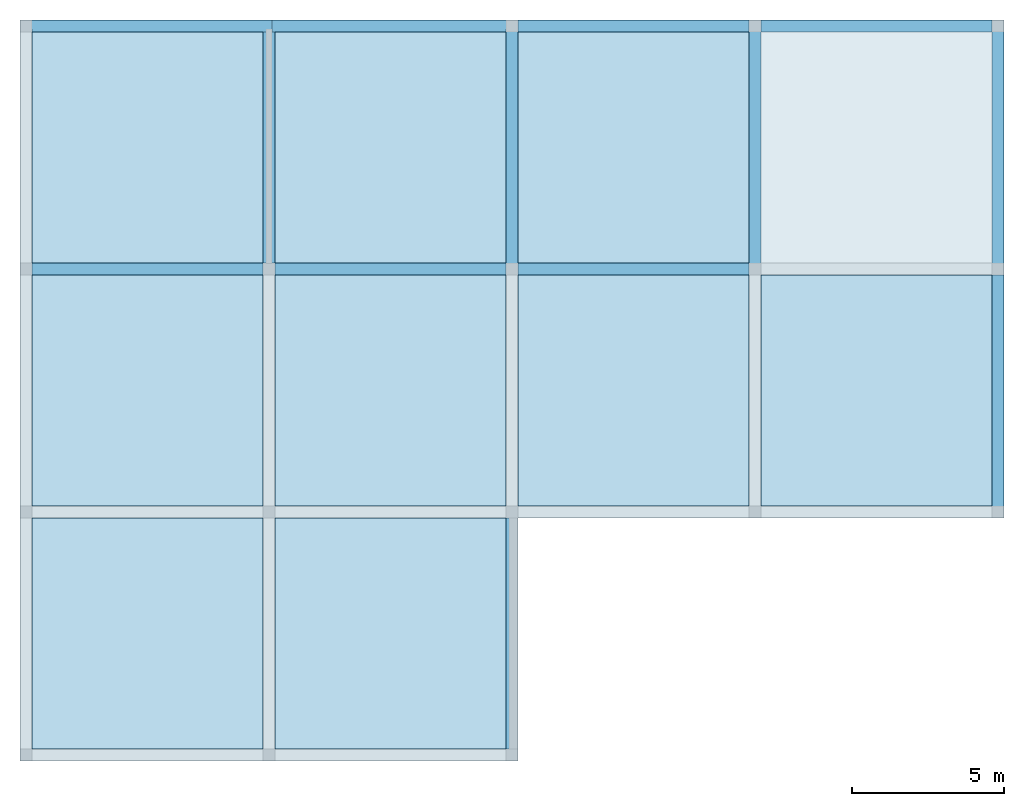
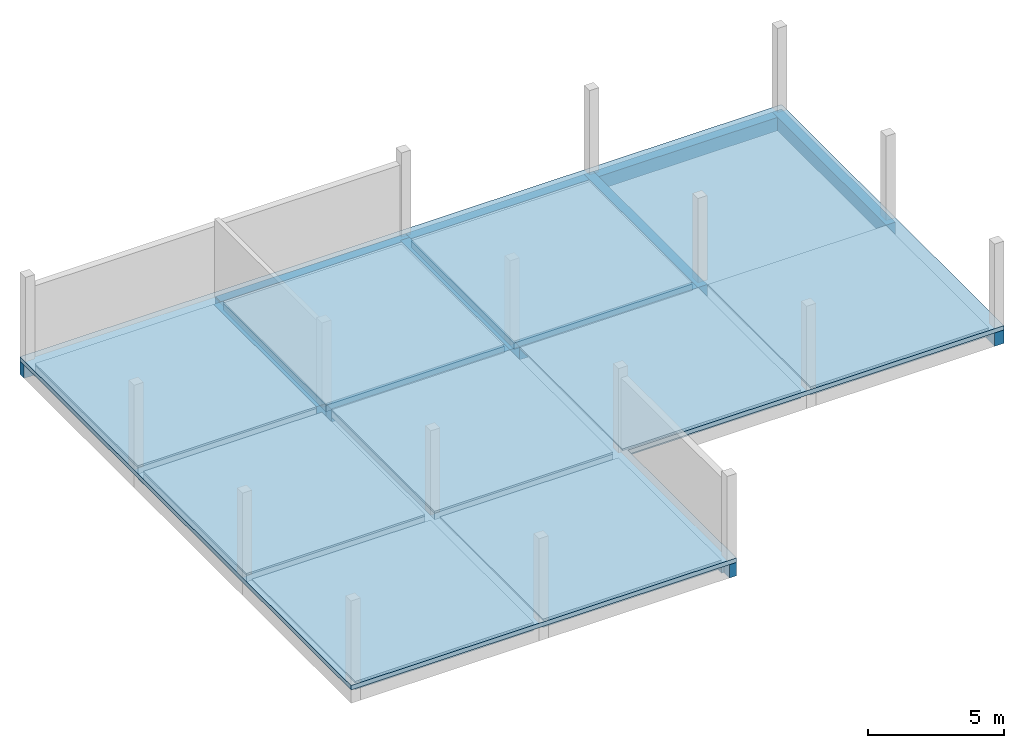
# One storey, part 2 of 3: 19 slabs, 13 beams.
"""IFC4X3_ADD2 building model written with IfcOpenShell, lengths in millimetres."""

from ifc_helpers import new_model, entity, si_unit, converted_unit, derived_unit, direction, frame, frame_2d, origin, origin_2d_with_axis, place, context, subcontext, project, spatial, polyline, rectangle, outline, extrude, faceted_brep, source, transform, mapped, material, layer, layer_set, layer_usage, material_profile, profile_set, type_object, type_shapes, element, save


model = new_model("IFC4X3_ADD2")

# Units and contexts
model_context = context("Model", 3, precision=0.01, world=origin(), true_north=direction((6.123233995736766e-17, 1.0)))
plan_context = context("Plan", 3, precision=0.01, world=origin(), true_north=direction((6.123233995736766e-17, 1.0)))
body_context = subcontext(model_context, "Body", "Model", "MODEL_VIEW")
ifc_project = project(units=[si_unit("LENGTHUNIT", "METRE", prefix="MILLI"), converted_unit("PLANEANGLEUNIT", "DEGREE", entity("IfcPlaneAngleMeasure", 0.017453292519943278), si_unit("PLANEANGLEUNIT", "RADIAN"), dimensions=[0, 0, 0, 0, 0, 0, 0]), si_unit("AREAUNIT", "SQUARE_METRE"), si_unit("VOLUMEUNIT", "CUBIC_METRE"), derived_unit("THERMALTRANSMITTANCEUNIT", [(si_unit("MASSUNIT", "GRAM", prefix="KILO"), 1), (si_unit("THERMODYNAMICTEMPERATUREUNIT", "KELVIN"), -1), (si_unit("TIMEUNIT", "SECOND"), -3)]), derived_unit("USERDEFINED", [(si_unit("MASSUNIT", "GRAM", prefix="KILO"), 1), (si_unit("THERMODYNAMICTEMPERATUREUNIT", "KELVIN"), -1), (si_unit("TIMEUNIT", "SECOND"), -2)]), derived_unit("THERMALRESISTANCEUNIT", [(si_unit("MASSUNIT", "GRAM", prefix="KILO"), -1), (si_unit("TIMEUNIT", "SECOND"), 3), (si_unit("THERMODYNAMICTEMPERATUREUNIT", "KELVIN"), 1)]), si_unit("PRESSUREUNIT", "PASCAL"), derived_unit("MASSDENSITYUNIT", [(si_unit("MASSUNIT", "GRAM", prefix="KILO"), 1), (si_unit("LENGTHUNIT", "METRE"), -3)]), derived_unit("MODULUSOFELASTICITYUNIT", [(si_unit("MASSUNIT", "GRAM", prefix="KILO"), 1), (si_unit("TIMEUNIT", "SECOND"), -2), (si_unit("LENGTHUNIT", "METRE"), -1)]), derived_unit("THERMALEXPANSIONCOEFFICIENTUNIT", [(si_unit("THERMODYNAMICTEMPERATUREUNIT", "KELVIN"), -1)]), derived_unit("VAPORPERMEABILITYUNIT", [(si_unit("LENGTHUNIT", "METRE"), -1), (si_unit("TIMEUNIT", "SECOND"), 1)]), derived_unit("USERDEFINED", [(si_unit("MASSUNIT", "GRAM", prefix="KILO"), 1), (si_unit("TIMEUNIT", "SECOND"), -3), (si_unit("LENGTHUNIT", "METRE"), 3), (si_unit("ELECTRICCURRENTUNIT", "AMPERE"), -2)]), derived_unit("SPECIFICHEATCAPACITYUNIT", [(si_unit("THERMODYNAMICTEMPERATUREUNIT", "KELVIN"), -1), (si_unit("TIMEUNIT", "SECOND"), -2), (si_unit("LENGTHUNIT", "METRE"), 2)]), derived_unit("THERMALCONDUCTANCEUNIT", [(si_unit("MASSUNIT", "GRAM", prefix="KILO"), 1), (si_unit("THERMODYNAMICTEMPERATUREUNIT", "KELVIN"), -1), (si_unit("TIMEUNIT", "SECOND"), -3), (si_unit("LENGTHUNIT", "METRE"), 1)])], contexts=[model_context, plan_context])

# Site, building, storey
site_placement = place(None, origin())
site = spatial("IfcSite", under=ifc_project, at=site_placement, Name="Default", CompositionType="ELEMENT")
building_placement = place(site_placement, origin())
building = spatial("IfcBuilding", under=site, at=building_placement, Name="Building Name", CompositionType="ELEMENT")
storey_placement = place(building_placement, origin())
storey = spatial("IfcBuildingStorey", under=building, at=storey_placement, Name="L1", CompositionType="ELEMENT", Elevation=0.0)

# Beams
ifc_material_1 = material(Name="Concrete - Cast-in-Place Concrete", Category="Concrete")
ifc_material_profile = material_profile(ifc_material_1, rectangle(XDim=600.0, YDim=400.0000000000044, at=frame_2d((-1.0942358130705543e-12, 2.842170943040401e-14), x_axis=(0.0, 1.0))), Name="400 x 600mm")
ifc_profile_set = profile_set([ifc_material_profile], Name="400 x 600mm")
beam_type_1 = type_object("IfcBeamType", Name="Concrete - Rectangular Beam:400 x 600mm", PredefinedType="BEAM", material=ifc_profile_set)
shared_shape_1 = source(origin(), body_context, "Body", "SweptSolid", [
    extrude(rectangle(XDim=600.0, YDim=400.0000000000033, at=frame_2d((5.400124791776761e-13, 2.842170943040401e-14), x_axis=(0.0, 1.0))), frame((3032.0487632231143, 11996.696870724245, -500.0), z_axis=(0.0, -1.0, 0.0), x_axis=(-1.0, 0.0, 0.0)), (0.0, 0.0, 1.0), 8100.000000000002),
])
type_shapes(beam_type_1, [shared_shape_1])
beam_1_placement = place(storey_placement, origin())
element("IfcBeam", 1, at=beam_1_placement, inside=storey, type_object=beam_type_1, Name="Concrete - Rectangular Beam:400 x 600mm", ObjectType="Concrete - Rectangular Beam:400 x 600mm", PredefinedType="BEAM", context=body_context, shape_type="MappedRepresentation", body=[
    mapped(shared_shape_1, transform((0.0, 0.0, 0.0), scale=1.0)),
])
beam_type_2 = type_object("IfcBeamType", Name="Concrete - Rectangular Beam:400 x 600mm", PredefinedType="BEAM", material=ifc_profile_set)
shared_shape_2 = source(origin(), body_context, "Body", "SweptSolid", [
    extrude(rectangle(XDim=600.0, YDim=400.00000000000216, at=frame_2d((-1.0942358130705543e-12, 2.842170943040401e-14), x_axis=(0.0, 1.0))), frame((11032.048763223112, 12296.696870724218, -500.0), z_axis=(0.0, -1.0, 0.0), x_axis=(-1.0, 0.0, 0.0)), (0.0, 0.0, 1.0), 8400.000000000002),
])
type_shapes(beam_type_2, [shared_shape_2])
beam_2_placement = place(storey_placement, origin())
element("IfcBeam", 2, at=beam_2_placement, inside=storey, type_object=beam_type_2, Name="Concrete - Rectangular Beam:400 x 600mm", ObjectType="Concrete - Rectangular Beam:400 x 600mm", PredefinedType="BEAM", context=body_context, shape_type="MappedRepresentation", body=[
    mapped(shared_shape_2, transform((0.0, 0.0, 0.0), scale=1.0)),
])
beam_type_3 = type_object("IfcBeamType", Name="Concrete - Rectangular Beam:400 x 600mm", PredefinedType="BEAM", material=ifc_profile_set)
shared_shape_3 = source(origin(), body_context, "Body", "SweptSolid", [
    extrude(rectangle(XDim=600.0, YDim=400.00000000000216, at=frame_2d((-1.0942358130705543e-12, 2.842170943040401e-14), x_axis=(0.0, 1.0))), frame((19032.048763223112, 12296.696870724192, -500.0), z_axis=(0.0, -1.0, 0.0), x_axis=(-1.0, 0.0, 0.0)), (0.0, 0.0, 1.0), 8400.000000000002),
])
type_shapes(beam_type_3, [shared_shape_3])
beam_3_placement = place(storey_placement, origin())
element("IfcBeam", 3, at=beam_3_placement, inside=storey, type_object=beam_type_3, Name="Concrete - Rectangular Beam:400 x 600mm", ObjectType="Concrete - Rectangular Beam:400 x 600mm", PredefinedType="BEAM", context=body_context, shape_type="MappedRepresentation", body=[
    mapped(shared_shape_3, transform((0.0, 0.0, 0.0), scale=1.0)),
])
beam_type_4 = type_object("IfcBeamType", Name="Concrete - Rectangular Beam:400 x 600mm", PredefinedType="BEAM", material=ifc_profile_set)
shared_shape_4 = source(origin(), body_context, "Body", "SweptSolid", [
    extrude(rectangle(XDim=600.0, YDim=400.00000000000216, at=frame_2d((-1.0942358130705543e-12, 2.842170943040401e-14), x_axis=(0.0, 1.0))), frame((19032.048763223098, 3896.6968707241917, -500.0), z_axis=(0.0, -1.0, 0.0), x_axis=(-1.0, 0.0, 0.0)), (0.0, 0.0, 1.0), 8000.000000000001),
])
type_shapes(beam_type_4, [shared_shape_4])
beam_4_placement = place(storey_placement, origin())
element("IfcBeam", 4, at=beam_4_placement, inside=storey, type_object=beam_type_4, Name="Concrete - Rectangular Beam:400 x 600mm", ObjectType="Concrete - Rectangular Beam:400 x 600mm", PredefinedType="BEAM", context=body_context, shape_type="MappedRepresentation", body=[
    mapped(shared_shape_4, transform((0.0, 0.0, 0.0), scale=1.0)),
])
beam_type_5 = type_object("IfcBeamType", Name="Concrete - Rectangular Beam:400 x 600mm", PredefinedType="BEAM", material=ifc_profile_set)
shared_shape_5 = source(origin(), body_context, "Body", "SweptSolid", [
    extrude(rectangle(XDim=600.0, YDim=400.0000000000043, at=frame_2d((2.842170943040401e-14, -2.1600499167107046e-12), x_axis=(1.0, 0.0))), frame((3232.0487632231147, 12096.696870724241, -500.0), z_axis=(1.0, 0.0, 0.0), x_axis=(0.0, 0.0, -1.0)), (0.0, 0.0, 1.0), 7600.000000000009),
])
type_shapes(beam_type_5, [shared_shape_5])
beam_5_placement = place(storey_placement, origin())
element("IfcBeam", 5, at=beam_5_placement, inside=storey, type_object=beam_type_5, Name="Concrete - Rectangular Beam:400 x 600mm", ObjectType="Concrete - Rectangular Beam:400 x 600mm", PredefinedType="BEAM", context=body_context, shape_type="MappedRepresentation", body=[
    mapped(shared_shape_5, transform((0.0, 0.0, 0.0), scale=1.0)),
])
beam_type_6 = type_object("IfcBeamType", Name="Concrete - Rectangular Beam:400 x 600mm", PredefinedType="BEAM", material=ifc_profile_set)
shared_shape_6 = source(origin(), body_context, "Body", "SweptSolid", [
    extrude(rectangle(XDim=600.0, YDim=400.0000000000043, at=frame_2d((2.842170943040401e-14, -2.1600499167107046e-12), x_axis=(1.0, 0.0))), frame((11232.048763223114, 12096.696870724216, -500.0), z_axis=(1.0, 0.0, 0.0), x_axis=(0.0, 0.0, -1.0)), (0.0, 0.0, 1.0), 7600.000000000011),
])
type_shapes(beam_type_6, [shared_shape_6])
beam_6_placement = place(storey_placement, origin())
element("IfcBeam", 6, at=beam_6_placement, inside=storey, type_object=beam_type_6, Name="Concrete - Rectangular Beam:400 x 600mm", ObjectType="Concrete - Rectangular Beam:400 x 600mm", PredefinedType="BEAM", context=body_context, shape_type="MappedRepresentation", body=[
    mapped(shared_shape_6, transform((0.0, 0.0, 0.0), scale=1.0)),
])
beam_type_7 = type_object("IfcBeamType", Name="Concrete - Rectangular Beam:400 x 600mm", PredefinedType="BEAM", material=ifc_profile_set)
shared_shape_7 = source(origin(), body_context, "Body", "SweptSolid", [
    extrude(rectangle(XDim=600.0, YDim=400.0000000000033, at=frame_2d((2.842170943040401e-14, 0.0), x_axis=(1.0, 0.0))), frame((3232.048763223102, 4096.696870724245, -500.0), z_axis=(1.0, 0.0, 0.0), x_axis=(0.0, 0.0, -1.0)), (0.0, 0.0, 1.0), 7599.999999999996),
])
type_shapes(beam_type_7, [shared_shape_7])
beam_7_placement = place(storey_placement, origin())
element("IfcBeam", 7, at=beam_7_placement, inside=storey, type_object=beam_type_7, Name="Concrete - Rectangular Beam:400 x 600mm", ObjectType="Concrete - Rectangular Beam:400 x 600mm", PredefinedType="BEAM", context=body_context, shape_type="MappedRepresentation", body=[
    mapped(shared_shape_7, transform((0.0, 0.0, 0.0), scale=1.0)),
])
beam_type_8 = type_object("IfcBeamType", Name="Concrete - Rectangular Beam:400 x 600mm", PredefinedType="BEAM", material=ifc_profile_set)
shared_shape_8 = source(origin(), body_context, "Body", "SweptSolid", [
    extrude(rectangle(XDim=600.0, YDim=400.0000000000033, at=frame_2d((2.842170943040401e-14, 0.0), x_axis=(1.0, 0.0))), frame((-12767.9512367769, 4096.696870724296, -500.0), z_axis=(1.0, 0.0, 0.0), x_axis=(0.0, 0.0, -1.0)), (0.0, 0.0, 1.0), 7600.000000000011),
])
type_shapes(beam_type_8, [shared_shape_8])
beam_8_placement = place(storey_placement, origin())
element("IfcBeam", 8, at=beam_8_placement, inside=storey, type_object=beam_type_8, Name="Concrete - Rectangular Beam:400 x 600mm", ObjectType="Concrete - Rectangular Beam:400 x 600mm", PredefinedType="BEAM", context=body_context, shape_type="MappedRepresentation", body=[
    mapped(shared_shape_8, transform((0.0, 0.0, 0.0), scale=1.0)),
])
beam_type_9 = type_object("IfcBeamType", Name="Concrete - Rectangular Beam:400 x 600mm", PredefinedType="BEAM", material=ifc_profile_set)
shared_shape_9 = source(origin(), body_context, "Body", "SweptSolid", [
    extrude(rectangle(XDim=600.0, YDim=400.0000000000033, at=frame_2d((2.842170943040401e-14, 0.0), x_axis=(1.0, 0.0))), frame((-4767.9512367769, 4096.69687072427, -500.0), z_axis=(1.0, 0.0, 0.0), x_axis=(0.0, 0.0, -1.0)), (0.0, 0.0, 1.0), 7599.999999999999),
])
type_shapes(beam_type_9, [shared_shape_9])
beam_9_placement = place(storey_placement, origin())
element("IfcBeam", 9, at=beam_9_placement, inside=storey, type_object=beam_type_9, Name="Concrete - Rectangular Beam:400 x 600mm", ObjectType="Concrete - Rectangular Beam:400 x 600mm", PredefinedType="BEAM", context=body_context, shape_type="MappedRepresentation", body=[
    mapped(shared_shape_9, transform((0.0, 0.0, 0.0), scale=1.0)),
])
beam_type_10 = type_object("IfcBeamType", Name="Concrete - Rectangular Beam:400 x 600mm", PredefinedType="BEAM", material=ifc_profile_set)
shared_shape_10 = source(origin(), body_context, "Body", "Brep", [
    faceted_brep([(8300.0, 0.0, 600.0), (8300.0, 400.0, 600.0), (0.0, 400.0, 600.0), (0.0, 100.0, 600.0), (400.0, 100.0, 600.0), (400.0, 0.0, 600.0), (8000.0, 0.0, 600.0), (8300.0, 0.0, 0.0), (400.0, 0.0, 520.0), (400.0, 0.0, 220.0), (400.0, 0.0, 0.0), (800.0, 0.0, 0.0), (7600.0, 0.0, 0.0), (8000.0, 0.0, 0.0), (8300.0, 400.0, 0.0), (400.0, 100.0, 0.0), (0.0, 100.0, 0.0), (0.0, 400.0, 0.0), (800.0, 400.0, 0.0), (7600.0, 400.0, 0.0)], [[[0, 1, 2, 3, 4, 5, 6]], [[7, 0, 6, 5, 8, 9, 10, 11, 12, 13]], [[14, 7, 13, 12, 11, 10, 15, 16, 17, 18, 19]], [[1, 14, 19, 18, 17, 2]], [[4, 15, 10, 9, 8, 5]], [[1, 0, 7, 14]], [[2, 17, 16, 3]], [[15, 4, 3, 16]]]),
])
type_shapes(beam_type_10, [shared_shape_10])
beam_10_placement = place(storey_placement, frame((-13167.95123677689, 11896.696870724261, -800.0)))
element("IfcBeam", 10, at=beam_10_placement, inside=storey, type_object=beam_type_10, material=ifc_material_1, Name="Concrete - Rectangular Beam:400 x 600mm", ObjectType="Concrete - Rectangular Beam:400 x 600mm", PredefinedType="BEAM", context=body_context, shape_type="MappedRepresentation", body=[
    mapped(shared_shape_10, transform((0.0, 0.0, 0.0), scale=1.0)),
])
beam_type_11 = type_object("IfcBeamType", Name="Concrete - Rectangular Beam:400 x 600mm", PredefinedType="BEAM", material=ifc_profile_set)
shared_shape_11 = source(origin(), body_context, "Body", "Brep", [
    faceted_brep([(0.0, 400.0, 600.0), (0.0, 400.0, 0.0), (0.0, 0.0, 0.0), (0.0, 0.0, 600.0), (100.0, 0.0, 600.0), (7700.0, 0.0, 600.0), (7700.0, 100.0, 600.0), (8100.0, 100.0, 600.0), (8100.0, 400.0, 600.0), (100.0, 0.0, 0.0), (500.0, 0.0, 0.0), (7300.0, 0.0, 0.0), (7700.0, 0.0, 0.0), (7700.0, 0.0, 220.0), (7700.0, 0.0, 520.0), (500.0, 400.0, 0.0), (7300.0, 400.0, 0.0), (8100.0, 400.0, 0.0), (8100.0, 100.0, 0.0), (7700.0, 100.0, 0.0)], [[[0, 1, 2, 3]], [[0, 3, 4, 5, 6, 7, 8]], [[3, 2, 9, 10, 11, 12, 13, 14, 5, 4]], [[2, 1, 15, 16, 17, 18, 19, 12, 11, 10, 9]], [[1, 0, 8, 17, 16, 15]], [[17, 8, 7, 18]], [[19, 6, 5, 14, 13, 12]], [[6, 19, 18, 7]]]),
])
type_shapes(beam_type_11, [shared_shape_11])
beam_11_placement = place(storey_placement, frame((-4867.951236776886, 11896.696870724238, -800.0)))
element("IfcBeam", 11, at=beam_11_placement, inside=storey, type_object=beam_type_11, material=ifc_material_1, Name="Concrete - Rectangular Beam:400 x 600mm", ObjectType="Concrete - Rectangular Beam:400 x 600mm", PredefinedType="BEAM", context=body_context, shape_type="MappedRepresentation", body=[
    mapped(shared_shape_11, transform((0.0, 0.0, 0.0), scale=1.0)),
])
beam_type_12 = type_object("IfcBeamType", Name="Concrete - Rectangular Beam:400 x 600mm", PredefinedType="BEAM", material=ifc_profile_set)
shared_shape_12 = source(origin(), body_context, "Body", "Brep", [
    faceted_brep([(0.0, 400.0, 600.0), (100.0, 400.0, 600.0), (100.0, 0.0, 600.0), (400.0, 0.0, 600.0), (400.0, 8000.0, 600.0), (0.0, 8000.0, 600.0), (0.0, 400.0, 0.0), (0.0, 400.0, 220.0), (0.0, 400.0, 520.0), (0.0, 8000.0, 520.0), (0.0, 8000.0, 220.0), (0.0, 8000.0, 0.0), (0.0, 7600.0, 0.0), (0.0, 800.0, 0.0), (100.0, 400.0, 0.0), (400.0, 8000.0, 0.0), (400.0, 7600.0, 0.0), (400.0, 800.0, 0.0), (400.0, 0.0, 0.0), (100.0, 0.0, 0.0)], [[[0, 1, 2, 3, 4, 5]], [[6, 7, 8, 0, 5, 9, 10, 11, 12, 13]], [[14, 6, 13, 12, 11, 15, 16, 17, 18, 19]], [[3, 18, 17, 16, 15, 4]], [[18, 3, 2, 19]], [[1, 0, 8, 7, 6, 14]], [[4, 15, 11, 10, 9, 5]], [[1, 14, 19, 2]]]),
])
type_shapes(beam_type_12, [shared_shape_12])
beam_12_placement = place(storey_placement, frame((2832.048763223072, -12103.303129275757, -800.0)))
element("IfcBeam", 12, at=beam_12_placement, inside=storey, type_object=beam_type_12, material=ifc_material_1, Name="Concrete - Rectangular Beam:400 x 600mm", ObjectType="Concrete - Rectangular Beam:400 x 600mm", PredefinedType="BEAM", context=body_context, shape_type="MappedRepresentation", body=[
    mapped(shared_shape_12, transform((0.0, 0.0, 0.0), scale=1.0)),
])
beam_type_13 = type_object("IfcBeamType", Name="Concrete - Rectangular Beam:400 x 600mm", PredefinedType="BEAM", material=ifc_profile_set)
shared_shape_13 = source(origin(), body_context, "Body", "SweptSolid", [
    extrude(rectangle(XDim=600.0, YDim=400.0000000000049, at=frame_2d((2.7000623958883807e-13, 2.842170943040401e-14), x_axis=(0.0, 1.0))), frame((-4967.951236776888, 11896.696870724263, -500.0), z_axis=(0.0, -1.0, 0.0), x_axis=(-1.0, 0.0, 0.0)), (0.0, 0.0, 1.0), 7600.000000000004),
])
type_shapes(beam_type_13, [shared_shape_13])
beam_13_placement = place(storey_placement, origin())
element("IfcBeam", 13, at=beam_13_placement, inside=storey, type_object=beam_type_13, Name="Concrete - Rectangular Beam:400 x 600mm", ObjectType="Concrete - Rectangular Beam:400 x 600mm", PredefinedType="BEAM", context=body_context, shape_type="MappedRepresentation", body=[
    mapped(shared_shape_13, transform((0.0, 0.0, 0.0), scale=1.0)),
])

# Slabs
ifc_material_2 = material(Name="Default Floor", Category="Miscellaneous")
ifc_layer_1 = layer(ifc_material_2, 200.0, Name="Layer", Category="Miscellaneous")
ifc_layer_set_1 = layer_set([ifc_layer_1], Name="Floor:Generic 200mm")
ifc_layer_usage_1 = layer_usage(ifc_layer_set_1, "AXIS3", "POSITIVE", 0.0)
slab_type_1 = type_object("IfcSlabType", Name="Floor:Generic 200mm", PredefinedType="FLOOR", material=ifc_layer_set_1)
slab_1_placement = place(storey_placement, origin())
element("IfcSlab", 14, at=slab_1_placement, inside=storey, type_object=slab_type_1, material=ifc_layer_usage_1, Name="Floor:Generic 200mm", ObjectType="Floor:Generic 200mm", PredefinedType="FLOOR", context=body_context, shape_type="SweptSolid", body=[
    extrude(outline(polyline([(-10800.0, -16266.666666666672), (13600.0, -16266.66666666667), (13600.0, 16133.333333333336), (-2800.0, 16133.33333333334), (-2800.0, 133.33333333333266), (-10800.0, 133.33333333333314), (-10800.0, -16266.666666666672)])), frame((3098.7154298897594, -1303.3031292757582, 0.0), z_axis=(0.0, 0.0, -1.0), x_axis=(0.0, 1.0, 0.0)), (0.0, 0.0, 1.0), 200.0),
])
ifc_layer_2 = layer(ifc_material_1, 80.0, Name="Concrete - Cast-in-Place Concrete", Category="Concrete")
ifc_layer_set_2 = layer_set([ifc_layer_2], Name="Floor:Blinding concrete 80mm")
ifc_layer_usage_2 = layer_usage(ifc_layer_set_2, "AXIS3", "POSITIVE", 0.0)
slab_type_2 = type_object("IfcSlabType", Name="Floor:Blinding concrete 80mm", PredefinedType="FLOOR", material=ifc_layer_set_2)
slab_2_placement = place(storey_placement, origin())
element("IfcSlab", 15, at=slab_2_placement, inside=storey, type_object=slab_type_2, material=ifc_layer_usage_2, Name="Floor:Blinding concrete 80mm", ObjectType="Floor:Blinding concrete 80mm", PredefinedType="FLOOR", context=body_context, shape_type="SweptSolid", body=[
    extrude(rectangle(XDim=7600.000000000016, YDim=7599.999999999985, at=frame_2d((-1.1368683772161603e-12, 1.1368683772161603e-12), x_axis=(1.0, 0.0))), frame((-8967.951236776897, 8096.69687072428, -200.0), z_axis=(0.0, 0.0, -1.0), x_axis=(0.0, 1.0, 0.0)), (0.0, 0.0, 1.0), 80.00000000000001),
])
ifc_layer_usage_3 = layer_usage(ifc_layer_set_2, "AXIS3", "POSITIVE", 0.0)
slab_3_placement = place(storey_placement, origin())
element("IfcSlab", 16, at=slab_3_placement, inside=storey, type_object=slab_type_2, material=ifc_layer_usage_3, Name="Floor:Blinding concrete 80mm", ObjectType="Floor:Blinding concrete 80mm", PredefinedType="FLOOR", context=body_context, shape_type="SweptSolid", body=[
    extrude(rectangle(XDim=7600.000000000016, YDim=7599.999999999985, at=frame_2d((-1.1368683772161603e-12, 0.0), x_axis=(1.0, 0.0))), frame((-967.9512367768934, 8096.696870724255, -200.0), z_axis=(0.0, 0.0, -1.0), x_axis=(0.0, 1.0, 0.0)), (0.0, 0.0, 1.0), 80.00000000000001),
])
ifc_layer_usage_4 = layer_usage(ifc_layer_set_2, "AXIS3", "POSITIVE", 0.0)
slab_4_placement = place(storey_placement, origin())
element("IfcSlab", 17, at=slab_4_placement, inside=storey, type_object=slab_type_2, material=ifc_layer_usage_4, Name="Floor:Blinding concrete 80mm", ObjectType="Floor:Blinding concrete 80mm", PredefinedType="FLOOR", context=body_context, shape_type="SweptSolid", body=[
    extrude(rectangle(XDim=7600.000000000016, YDim=7599.999999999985, at=frame_2d((-1.1368683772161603e-12, 0.0), x_axis=(1.0, 0.0))), frame((7032.048763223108, 8096.696870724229, -200.0), z_axis=(0.0, 0.0, -1.0), x_axis=(0.0, 1.0, 0.0)), (0.0, 0.0, 1.0), 80.00000000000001),
])
ifc_layer_usage_5 = layer_usage(ifc_layer_set_2, "AXIS3", "POSITIVE", 0.0)
slab_5_placement = place(storey_placement, origin())
element("IfcSlab", 18, at=slab_5_placement, inside=storey, type_object=slab_type_2, material=ifc_layer_usage_5, Name="Floor:Blinding concrete 80mm", ObjectType="Floor:Blinding concrete 80mm", PredefinedType="FLOOR", context=body_context, shape_type="SweptSolid", body=[
    extrude(rectangle(XDim=7600.0000000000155, YDim=7599.999999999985, at=frame_2d((0.0, -1.1368683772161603e-12), x_axis=(1.0, 0.0))), frame((15032.048763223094, 96.69687072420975, -200.0), z_axis=(0.0, 0.0, -1.0), x_axis=(0.0, 1.0, 0.0)), (0.0, 0.0, 1.0), 80.00000000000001),
])
ifc_layer_usage_6 = layer_usage(ifc_layer_set_2, "AXIS3", "POSITIVE", 0.0)
slab_6_placement = place(storey_placement, origin())
element("IfcSlab", 19, at=slab_6_placement, inside=storey, type_object=slab_type_2, material=ifc_layer_usage_6, Name="Floor:Blinding concrete 80mm", ObjectType="Floor:Blinding concrete 80mm", PredefinedType="FLOOR", context=body_context, shape_type="SweptSolid", body=[
    extrude(rectangle(XDim=7600.0000000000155, YDim=7599.999999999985, at=origin_2d_with_axis()), frame((7032.048763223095, 96.69687072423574, -200.0), z_axis=(0.0, 0.0, -1.0), x_axis=(0.0, 1.0, 0.0)), (0.0, 0.0, 1.0), 80.00000000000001),
])
ifc_layer_usage_7 = layer_usage(ifc_layer_set_2, "AXIS3", "POSITIVE", 0.0)
slab_7_placement = place(storey_placement, origin())
element("IfcSlab", 20, at=slab_7_placement, inside=storey, type_object=slab_type_2, material=ifc_layer_usage_7, Name="Floor:Blinding concrete 80mm", ObjectType="Floor:Blinding concrete 80mm", PredefinedType="FLOOR", context=body_context, shape_type="SweptSolid", body=[
    extrude(rectangle(XDim=7600.0000000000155, YDim=7599.999999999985, at=origin_2d_with_axis()), frame((-967.9512367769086, 96.69687072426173, -200.0), z_axis=(0.0, 0.0, -1.0), x_axis=(0.0, 1.0, 0.0)), (0.0, 0.0, 1.0), 80.00000000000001),
])
ifc_layer_usage_8 = layer_usage(ifc_layer_set_2, "AXIS3", "POSITIVE", 0.0)
slab_8_placement = place(storey_placement, origin())
element("IfcSlab", 21, at=slab_8_placement, inside=storey, type_object=slab_type_2, material=ifc_layer_usage_8, Name="Floor:Blinding concrete 80mm", ObjectType="Floor:Blinding concrete 80mm", PredefinedType="FLOOR", context=body_context, shape_type="SweptSolid", body=[
    extrude(rectangle(XDim=7600.0000000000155, YDim=7599.999999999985, at=frame_2d((0.0, -1.1368683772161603e-12), x_axis=(1.0, 0.0))), frame((-8967.951236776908, 96.69687072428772, -200.0), z_axis=(0.0, 0.0, -1.0), x_axis=(0.0, 1.0, 0.0)), (0.0, 0.0, 1.0), 80.00000000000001),
])
ifc_layer_usage_9 = layer_usage(ifc_layer_set_2, "AXIS3", "POSITIVE", 0.0)
slab_9_placement = place(storey_placement, origin())
element("IfcSlab", 22, at=slab_9_placement, inside=storey, type_object=slab_type_2, material=ifc_layer_usage_9, Name="Floor:Blinding concrete 80mm", ObjectType="Floor:Blinding concrete 80mm", PredefinedType="FLOOR", context=body_context, shape_type="SweptSolid", body=[
    extrude(rectangle(XDim=7600.000000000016, YDim=7599.999999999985, at=frame_2d((-1.1368683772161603e-12, 1.1368683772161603e-12), x_axis=(1.0, 0.0))), frame((-8967.951236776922, -7903.303129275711, -200.0), z_axis=(0.0, 0.0, -1.0), x_axis=(0.0, 1.0, 0.0)), (0.0, 0.0, 1.0), 80.00000000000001),
])
ifc_layer_usage_10 = layer_usage(ifc_layer_set_2, "AXIS3", "POSITIVE", 0.0)
slab_10_placement = place(storey_placement, origin())
element("IfcSlab", 23, at=slab_10_placement, inside=storey, type_object=slab_type_2, material=ifc_layer_usage_10, Name="Floor:Blinding concrete 80mm", ObjectType="Floor:Blinding concrete 80mm", PredefinedType="FLOOR", context=body_context, shape_type="SweptSolid", body=[
    extrude(rectangle(XDim=7600.000000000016, YDim=7599.999999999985, at=frame_2d((-1.1368683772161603e-12, 0.0), x_axis=(1.0, 0.0))), frame((-967.9512367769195, -7903.303129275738, -200.0), z_axis=(0.0, 0.0, -1.0), x_axis=(0.0, 1.0, 0.0)), (0.0, 0.0, 1.0), 80.00000000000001),
])
ifc_material_3 = material(Name="Gravel", Category="Misc")
ifc_layer_3 = layer(ifc_material_3, 300.0, Name="Gravel", Category="Misc")
ifc_layer_set_3 = layer_set([ifc_layer_3], Name="Floor:Gravel 300 mm")
ifc_layer_usage_11 = layer_usage(ifc_layer_set_3, "AXIS3", "POSITIVE", 0.0)
slab_type_3 = type_object("IfcSlabType", Name="Floor:Gravel 300 mm", PredefinedType="FLOOR", material=ifc_layer_set_3)
slab_11_placement = place(storey_placement, origin())
element("IfcSlab", 24, at=slab_11_placement, inside=storey, type_object=slab_type_3, material=ifc_layer_usage_11, Name="Floor:Gravel 300 mm", ObjectType="Floor:Gravel 300 mm", PredefinedType="FLOOR", context=body_context, shape_type="SweptSolid", body=[
    extrude(rectangle(XDim=7600.000000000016, YDim=7599.999999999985, at=frame_2d((-1.1368683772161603e-12, 1.1368683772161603e-12), x_axis=(1.0, 0.0))), frame((-8967.951236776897, 8096.69687072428, -280.0), z_axis=(0.0, 0.0, -1.0), x_axis=(0.0, 1.0, 0.0)), (0.0, 0.0, 1.0), 300.0),
])
ifc_layer_usage_12 = layer_usage(ifc_layer_set_3, "AXIS3", "POSITIVE", 0.0)
slab_12_placement = place(storey_placement, origin())
element("IfcSlab", 25, at=slab_12_placement, inside=storey, type_object=slab_type_3, material=ifc_layer_usage_12, Name="Floor:Gravel 300 mm", ObjectType="Floor:Gravel 300 mm", PredefinedType="FLOOR", context=body_context, shape_type="SweptSolid", body=[
    extrude(rectangle(XDim=7600.000000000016, YDim=7599.999999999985, at=frame_2d((-1.1368683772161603e-12, 0.0), x_axis=(1.0, 0.0))), frame((-967.9512367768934, 8096.696870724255, -280.0), z_axis=(0.0, 0.0, -1.0), x_axis=(0.0, 1.0, 0.0)), (0.0, 0.0, 1.0), 300.0),
])
ifc_layer_usage_13 = layer_usage(ifc_layer_set_3, "AXIS3", "POSITIVE", 0.0)
slab_13_placement = place(storey_placement, origin())
element("IfcSlab", 26, at=slab_13_placement, inside=storey, type_object=slab_type_3, material=ifc_layer_usage_13, Name="Floor:Gravel 300 mm", ObjectType="Floor:Gravel 300 mm", PredefinedType="FLOOR", context=body_context, shape_type="SweptSolid", body=[
    extrude(rectangle(XDim=7600.000000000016, YDim=7599.999999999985, at=frame_2d((-1.1368683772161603e-12, 0.0), x_axis=(1.0, 0.0))), frame((7032.048763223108, 8096.696870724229, -280.0), z_axis=(0.0, 0.0, -1.0), x_axis=(0.0, 1.0, 0.0)), (0.0, 0.0, 1.0), 300.0),
])
ifc_layer_usage_14 = layer_usage(ifc_layer_set_3, "AXIS3", "POSITIVE", 0.0)
slab_14_placement = place(storey_placement, origin())
element("IfcSlab", 27, at=slab_14_placement, inside=storey, type_object=slab_type_3, material=ifc_layer_usage_14, Name="Floor:Gravel 300 mm", ObjectType="Floor:Gravel 300 mm", PredefinedType="FLOOR", context=body_context, shape_type="SweptSolid", body=[
    extrude(rectangle(XDim=7600.0000000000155, YDim=7599.999999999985, at=frame_2d((0.0, -1.1368683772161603e-12), x_axis=(1.0, 0.0))), frame((15032.048763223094, 96.69687072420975, -280.0), z_axis=(0.0, 0.0, -1.0), x_axis=(0.0, 1.0, 0.0)), (0.0, 0.0, 1.0), 300.0),
])
ifc_layer_usage_15 = layer_usage(ifc_layer_set_3, "AXIS3", "POSITIVE", 0.0)
slab_15_placement = place(storey_placement, origin())
element("IfcSlab", 28, at=slab_15_placement, inside=storey, type_object=slab_type_3, material=ifc_layer_usage_15, Name="Floor:Gravel 300 mm", ObjectType="Floor:Gravel 300 mm", PredefinedType="FLOOR", context=body_context, shape_type="SweptSolid", body=[
    extrude(rectangle(XDim=7600.0000000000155, YDim=7599.999999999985, at=origin_2d_with_axis()), frame((7032.048763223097, 96.69687072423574, -280.0), z_axis=(0.0, 0.0, -1.0), x_axis=(0.0, 1.0, 0.0)), (0.0, 0.0, 1.0), 300.0),
])
ifc_layer_usage_16 = layer_usage(ifc_layer_set_3, "AXIS3", "POSITIVE", 0.0)
slab_16_placement = place(storey_placement, origin())
element("IfcSlab", 29, at=slab_16_placement, inside=storey, type_object=slab_type_3, material=ifc_layer_usage_16, Name="Floor:Gravel 300 mm", ObjectType="Floor:Gravel 300 mm", PredefinedType="FLOOR", context=body_context, shape_type="SweptSolid", body=[
    extrude(rectangle(XDim=7600.0000000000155, YDim=7599.999999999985, at=origin_2d_with_axis()), frame((-967.9512367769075, 96.69687072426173, -280.0), z_axis=(0.0, 0.0, -1.0), x_axis=(0.0, 1.0, 0.0)), (0.0, 0.0, 1.0), 300.0),
])
ifc_layer_usage_17 = layer_usage(ifc_layer_set_3, "AXIS3", "POSITIVE", 0.0)
slab_17_placement = place(storey_placement, origin())
element("IfcSlab", 30, at=slab_17_placement, inside=storey, type_object=slab_type_3, material=ifc_layer_usage_17, Name="Floor:Gravel 300 mm", ObjectType="Floor:Gravel 300 mm", PredefinedType="FLOOR", context=body_context, shape_type="SweptSolid", body=[
    extrude(rectangle(XDim=7600.0000000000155, YDim=7599.999999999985, at=origin_2d_with_axis()), frame((-8967.951236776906, 96.69687072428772, -280.0), z_axis=(0.0, 0.0, -1.0), x_axis=(0.0, 1.0, 0.0)), (0.0, 0.0, 1.0), 300.0),
])
ifc_layer_usage_18 = layer_usage(ifc_layer_set_3, "AXIS3", "POSITIVE", 0.0)
slab_18_placement = place(storey_placement, origin())
element("IfcSlab", 31, at=slab_18_placement, inside=storey, type_object=slab_type_3, material=ifc_layer_usage_18, Name="Floor:Gravel 300 mm", ObjectType="Floor:Gravel 300 mm", PredefinedType="FLOOR", context=body_context, shape_type="SweptSolid", body=[
    extrude(rectangle(XDim=7600.000000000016, YDim=7599.999999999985, at=frame_2d((-1.1368683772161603e-12, 0.0), x_axis=(1.0, 0.0))), frame((-8967.951236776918, -7903.303129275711, -280.0), z_axis=(0.0, 0.0, -1.0), x_axis=(0.0, 1.0, 0.0)), (0.0, 0.0, 1.0), 300.0),
])
ifc_layer_usage_19 = layer_usage(ifc_layer_set_3, "AXIS3", "POSITIVE", 0.0)
slab_19_placement = place(storey_placement, origin())
element("IfcSlab", 32, at=slab_19_placement, inside=storey, type_object=slab_type_3, material=ifc_layer_usage_19, Name="Floor:Gravel 300 mm", ObjectType="Floor:Gravel 300 mm", PredefinedType="FLOOR", context=body_context, shape_type="SweptSolid", body=[
    extrude(rectangle(XDim=7600.000000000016, YDim=7599.999999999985, at=frame_2d((-1.1368683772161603e-12, 0.0), x_axis=(1.0, 0.0))), frame((-967.9512367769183, -7903.303129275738, -280.0), z_axis=(0.0, 0.0, -1.0), x_axis=(0.0, 1.0, 0.0)), (0.0, 0.0, 1.0), 300.0),
])

save(model, "model.ifc")
